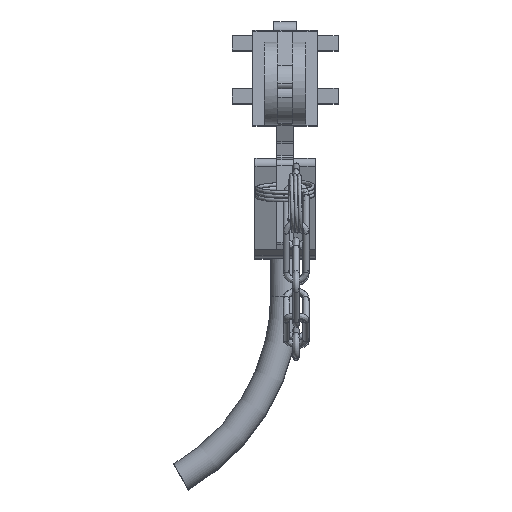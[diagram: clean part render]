
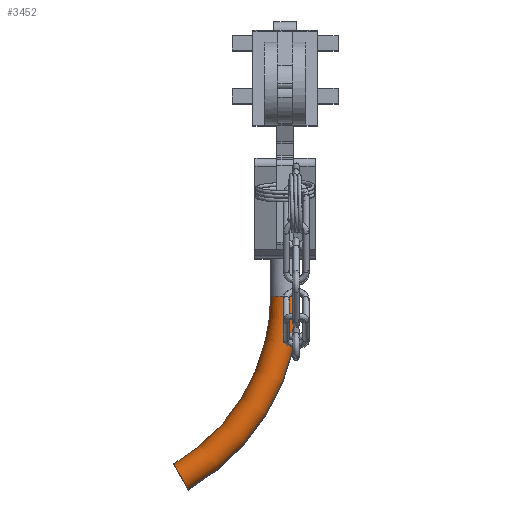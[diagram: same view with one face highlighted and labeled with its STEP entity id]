
A CAD part, top view. The second image highlights one B-rep face of the part: STEP entity #3452.
In plain terms, the highlighted toroidal (fillet/blend) face has major radius 100 mm and minor radius 7 mm.
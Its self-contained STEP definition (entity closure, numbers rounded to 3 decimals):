
#160=TOROIDAL_SURFACE('',#3712,100.,7.);
#343=CIRCLE('',#3711,7.);
#344=CIRCLE('',#3713,7.);
#1457=ORIENTED_EDGE('',*,*,#1816,.F.);
#1458=ORIENTED_EDGE('',*,*,#1815,.T.);
#1815=EDGE_CURVE('',#2040,#2040,#343,.T.);
#1816=EDGE_CURVE('',#2041,#2041,#344,.T.);
#2040=VERTEX_POINT('',#5436);
#2041=VERTEX_POINT('',#5439);
#2212=EDGE_LOOP('',(#1457));
#2213=EDGE_LOOP('',(#1458));
#2386=FACE_BOUND('',#2212,.T.);
#2387=FACE_BOUND('',#2213,.T.);
#3452=ADVANCED_FACE('',(#2386,#2387),#160,.T.);
#3711=AXIS2_PLACEMENT_3D('',#5435,#4401,#4402);
#3712=AXIS2_PLACEMENT_3D('',#5437,#4403,#4404);
#3713=AXIS2_PLACEMENT_3D('',#5438,#4405,#4406);
#4401=DIRECTION('',(0.,0.,-1.));
#4402=DIRECTION('',(1.,0.,0.));
#4403=DIRECTION('',(1.,0.,0.));
#4404=DIRECTION('',(0.,0.,-1.));
#4405=DIRECTION('',(0.,-0.866,-0.5));
#4406=DIRECTION('',(0.,0.5,-0.866));
#5435=CARTESIAN_POINT('',(0.,0.,-75.));
#5436=CARTESIAN_POINT('',(7.,0.,-75.));
#5437=CARTESIAN_POINT('',(0.,-100.,-75.));
#5438=CARTESIAN_POINT('',(0.,-50.,-161.603));
#5439=CARTESIAN_POINT('',(0.,-46.5,-167.665));
